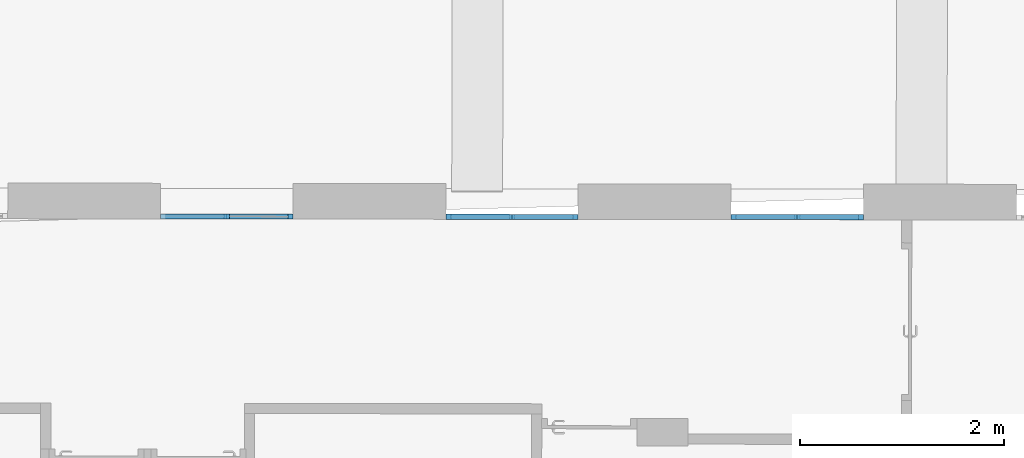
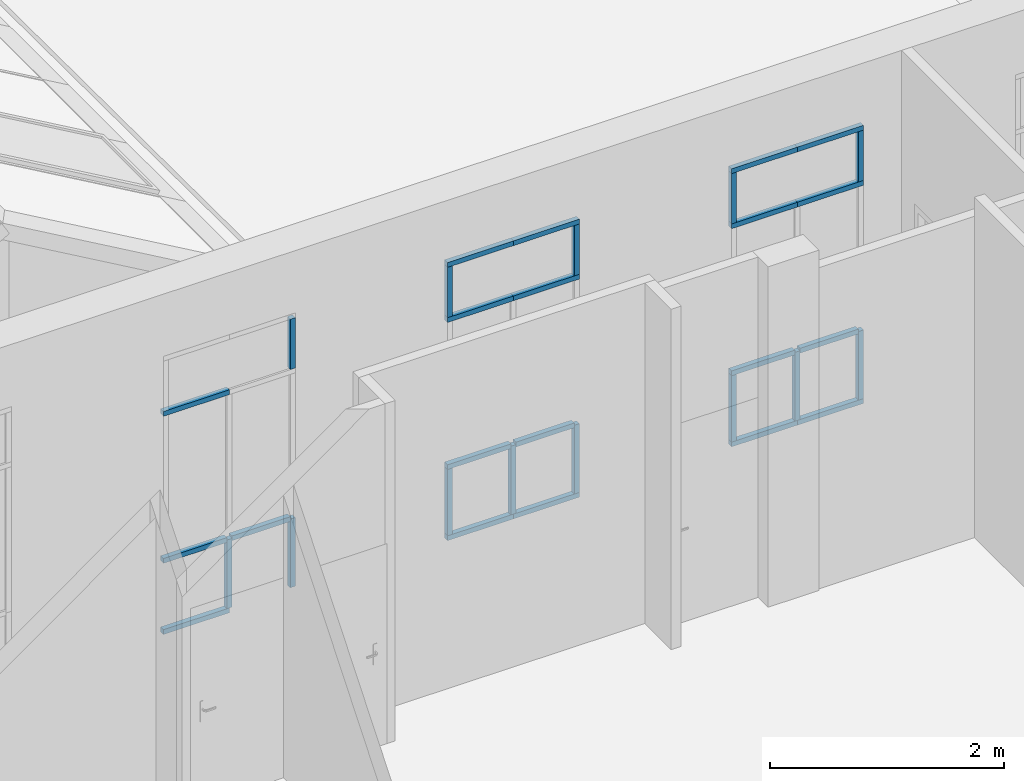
# One storey, part 23 of 101: 33 members, 3 elements without a shape of their own.
"""IFC2X3 building model written with IfcOpenShell, lengths in metres."""

import ifcopenshell
import ifcopenshell.guid

model = None  # the IFC model being written
_history = None  # IfcOwnerHistory: only IFC2X3 demands one
_inside = {}  # id of a spatial element -> (the spatial element, [elements in it])
_under = {}  # id of a project, library or spatial element -> (it, [spatial elements below it])
_declared = {}  # id of a project -> (the project, [libraries it declares])
_typed = {}  # id of a type object -> (the type object, [elements of that type])
_made_of = {}  # id of a material, layer set ... -> (it, [elements and type objects made of it])


def new_model(schema):
    """Start an empty IFC model of exactly this schema.

    Asked for "IFC4X3", IfcOpenShell would pick the latest addendum, in which some entities
    have other attributes; the version numbers below select the first issue.
    IFC2X3 requires an IfcOwnerHistory on every rooted entity: one is made here for all.
    """
    global model, _history
    if schema == "IFC4X3":
        model = ifcopenshell.file(schema_version=(4, 3, 0, 0))
    else:
        model = ifcopenshell.file(schema=schema)
    _inside.clear()
    _under.clear()
    _declared.clear()
    _typed.clear()
    _made_of.clear()
    _history = None
    if model.schema == "IFC2X3":
        org = make("IfcOrganization", Name="unknown")
        user = make(
            "IfcPersonAndOrganization",
            ThePerson=make("IfcPerson", FamilyName="unknown"),
            TheOrganization=org,
        )
        app = make(
            "IfcApplication",
            ApplicationDeveloper=org,
            Version="unknown",
            ApplicationFullName="unknown",
            ApplicationIdentifier="unknown",
        )
        _history = make(
            "IfcOwnerHistory",
            OwningUser=user,
            OwningApplication=app,
            ChangeAction="ADDED",
            CreationDate=0,
        )
    return model


def make(cls, **values):
    """One entity of the class cls with the attributes given. An attribute that is None is left unset."""
    return model.create_entity(
        cls, **{name: value for name, value in values.items() if value is not None}
    )


def entity(cls, *values):
    """Any entity or typed value of the class cls, its attributes in the order of the schema. None: left unset."""
    e = model.create_entity(cls)
    for i, value in enumerate(values):
        if value is not None:
            e[i] = value
    return e


def rooted(cls, **values):
    """An entity with a GlobalId (a new one), such as an element, a storey or a relation."""
    return make(cls, GlobalId=ifcopenshell.guid.new(), OwnerHistory=_history, **values)


def si_unit(unit_type, name, prefix=None):
    """IfcSIUnit, for example si_unit("LENGTHUNIT", "METRE", prefix="MILLI")."""
    return make("IfcSIUnit", UnitType=unit_type, Prefix=prefix, Name=name)


def converted_unit(unit_type, name, factor, base, dimensions=None, offset=None):
    """IfcConversionBasedUnit, such as the inch: factor (a typed value) times the base unit."""
    return make(
        "IfcConversionBasedUnit"
        if offset is None
        else "IfcConversionBasedUnitWithOffset",
        ConversionOffset=offset,
        Dimensions=None
        if dimensions is None
        else entity("IfcDimensionalExponents", *dimensions),
        UnitType=unit_type,
        Name=name,
        ConversionFactor=make(
            "IfcMeasureWithUnit", ValueComponent=factor, UnitComponent=base
        ),
    )


def derived_unit(unit_type, elements):
    """IfcDerivedUnit: a product of units, each with its exponent."""
    return make(
        "IfcDerivedUnit",
        Elements=[
            make("IfcDerivedUnitElement", Unit=unit, Exponent=power)
            for unit, power in elements
        ],
        UnitType=unit_type,
    )


def assignment(units):
    """IfcUnitAssignment: the units of a project."""
    return None if units is None else make("IfcUnitAssignment", Units=units)


def point(xyz):
    """IfcCartesianPoint."""
    return None if xyz is None else make("IfcCartesianPoint", Coordinates=xyz)


def direction(xyz):
    """IfcDirection."""
    return None if xyz is None else make("IfcDirection", DirectionRatios=xyz)


def frame(location, z_axis=None, x_axis=None):
    """IfcAxis2Placement3D, a coordinate frame: its origin and axes. An axis left out is left unset."""
    return make(
        "IfcAxis2Placement3D",
        Location=point(location),
        Axis=direction(z_axis),
        RefDirection=direction(x_axis),
    )


def frame_2d(location, x_axis=None):
    """IfcAxis2Placement2D, a coordinate frame in the plane: its origin and x axis."""
    return make(
        "IfcAxis2Placement2D", Location=point(location), RefDirection=direction(x_axis)
    )


def origin():
    """The frame at (0, 0, 0) with its axes left unset."""
    return frame((0.0, 0.0, 0.0))


def origin_2d_with_axis():
    """The frame at (0, 0) in the plane with the x axis (1, 0) written out."""
    return frame_2d((0.0, 0.0), x_axis=(1.0, 0.0))


def place(relative_to, where):
    """IfcLocalPlacement: puts the frame where relative to a parent placement (None: the world)."""
    return make(
        "IfcLocalPlacement", PlacementRelTo=relative_to, RelativePlacement=where
    )


def context(
    kind, dimensions, precision=None, world=None, true_north=None, identifier=None
):
    """IfcGeometricRepresentationContext, for example the 3D "Model" context."""
    return make(
        "IfcGeometricRepresentationContext",
        ContextIdentifier=identifier,
        ContextType=kind,
        CoordinateSpaceDimension=dimensions,
        Precision=precision,
        WorldCoordinateSystem=world,
        TrueNorth=true_north,
    )


def subcontext(parent, identifier, kind, view, scale=None):
    """IfcGeometricRepresentationSubContext, for example "Body" below "Model"."""
    return make(
        "IfcGeometricRepresentationSubContext",
        ContextIdentifier=identifier,
        ContextType=kind,
        ParentContext=parent,
        TargetScale=scale,
        TargetView=view,
    )


def project(units=None, contexts=None):
    """IfcProject with its units and contexts."""
    return rooted(
        "IfcProject",
        Name="project",
        RepresentationContexts=contexts,
        UnitsInContext=assignment(units),
    )


def spatial(cls, under=None, at=None, **own):
    """A site, building, storey or space (cls), placed at a placement, below another one or the project."""
    s = rooted(cls, ObjectPlacement=at, **own)
    if under is not None:
        _under.setdefault(under.id(), (under, []))[1].append(s)
    return s


def profile(cls, at=None, kind="AREA", **sizes):
    """A parametric profile (cls). Its sizes go by their IFC names, for example OverallWidth=200.0."""
    return make(cls, ProfileType=kind, Position=at, **sizes)


def rectangle(**sizes):
    """IfcRectangleProfileDef."""
    return profile("IfcRectangleProfileDef", **sizes)


def extrude(swept, where, along, depth):
    """IfcExtrudedAreaSolid: the profile swept, set in the frame where, extruded along a direction by depth."""
    return make(
        "IfcExtrudedAreaSolid",
        SweptArea=swept,
        Position=where,
        ExtrudedDirection=direction(along),
        Depth=depth,
    )


def shape(context_of_items, identifier, shape_type, items):
    """IfcShapeRepresentation: the items that make up one representation, for example the "Body"."""
    return make(
        "IfcShapeRepresentation",
        ContextOfItems=context_of_items,
        RepresentationIdentifier=identifier,
        RepresentationType=shape_type,
        Items=items,
    )


def source(mapping_origin, context_of_items, identifier, shape_type, items):
    """IfcRepresentationMap: a shape defined once, which mapped items show again and again."""
    return make(
        "IfcRepresentationMap",
        MappingOrigin=mapping_origin,
        MappedRepresentation=shape(context_of_items, identifier, shape_type, items),
    )


def transform(
    local_origin,
    x_axis=None,
    y_axis=None,
    z_axis=None,
    scale=None,
    scale2=None,
    scale3=None,
    uniform=True,
):
    """IfcCartesianTransformationOperator3D, or its non-uniform kind. x_axis, y_axis, z_axis: its Axis1, 2, 3."""
    if uniform:
        return make(
            "IfcCartesianTransformationOperator3D",
            Axis1=direction(x_axis),
            Axis2=direction(y_axis),
            LocalOrigin=point(local_origin),
            Scale=scale,
            Axis3=direction(z_axis),
        )
    return make(
        "IfcCartesianTransformationOperator3DnonUniform",
        Axis1=direction(x_axis),
        Axis2=direction(y_axis),
        LocalOrigin=point(local_origin),
        Scale=scale,
        Axis3=direction(z_axis),
        Scale2=scale2,
        Scale3=scale3,
    )


def mapped(mapping_source, mapping_target):
    """IfcMappedItem: shows the shape of a source again, moved by a transform."""
    return make(
        "IfcMappedItem", MappingSource=mapping_source, MappingTarget=mapping_target
    )


def material(Name=None, Category=None):
    """IfcMaterial."""
    return make("IfcMaterial", Name=Name, Category=Category)


def made_of(thing, what):
    """Note that an element or type object is made of a material, layer set ...; save() writes the relation."""
    if what is not None:
        _made_of.setdefault(what.id(), (what, []))[1].append(thing)
    return thing


def type_object(cls, material=None, **own):
    """A type object (cls), such as IfcWallType, which elements share."""
    return made_of(rooted(cls, **own), material)


def type_shapes(of_type, sources):
    """Give a type object the sources (RepresentationMaps) that its elements show as mapped items."""
    of_type.RepresentationMaps = sources


def element(
    cls,
    number,
    at=None,
    inside=None,
    cuts=None,
    type_object=None,
    material=None,
    context=None,
    identifier="Body",
    shape_type=None,
    held_by="IfcProductDefinitionShape",
    body=None,
    shapes=None,
    **own,
):
    """One element of the class cls, such as IfcWall. Its Tag is "e" and its number.

    at: its placement. inside: the storey or other place that contains it. cuts: it is an
    opening in that element (IfcRelVoidsElement). A single representation is given by context,
    identifier, shape_type and body (its items); several are given by shapes. held_by: the class
    of the entity that holds the representations. save() writes the other relations.
    """
    e = rooted(cls, Tag="e%d" % number, ObjectPlacement=at, **own)
    if body is not None:
        shapes = [shape(context, identifier, shape_type, body)]
    if shapes is not None:
        e.Representation = make(held_by, Representations=shapes)
    if inside is not None:
        _inside.setdefault(inside.id(), (inside, []))[1].append(e)
    if cuts is not None:
        rooted(
            "IfcRelVoidsElement", RelatingBuildingElement=cuts, RelatedOpeningElement=e
        )
    if type_object is not None:
        _typed.setdefault(type_object.id(), (type_object, []))[1].append(e)
    return made_of(e, material)


def aggregate(whole, parts):
    """IfcRelAggregates: a whole, such as a stair, and the parts it consists of."""
    return rooted("IfcRelAggregates", RelatingObject=whole, RelatedObjects=parts)


def save(model, path):
    """Write the relations noted so far, then the file.

    IfcRelAggregates (storeys below a building ...), IfcRelContainedInSpatialStructure (elements
    in a storey), IfcRelDefinesByType, IfcRelAssociatesMaterial and IfcRelDeclares: one each for
    every whole, place, type object, material and project.
    """
    for whole, parts in _under.values():
        aggregate(whole, parts)
    for where, things in _inside.values():
        rooted(
            "IfcRelContainedInSpatialStructure",
            RelatedElements=things,
            RelatingStructure=where,
        )
    for kind, things in _typed.values():
        rooted("IfcRelDefinesByType", RelatedObjects=things, RelatingType=kind)
    for what, things in _made_of.values():
        rooted("IfcRelAssociatesMaterial", RelatedObjects=things, RelatingMaterial=what)
    for by, libraries in _declared.values():
        rooted("IfcRelDeclares", RelatingContext=by, RelatedDefinitions=libraries)
    model.write(path)


model = new_model("IFC2X3")

# Units and contexts
model_context = context("Model", 3, precision=1e-05, world=origin(), true_north=direction((6.123233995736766e-17, 1.0)))
body_context = subcontext(model_context, "Body", "Model", "MODEL_VIEW")
ifc_project = project(units=[si_unit("LENGTHUNIT", "METRE"), si_unit("AREAUNIT", "SQUARE_METRE"), converted_unit("PLANEANGLEUNIT", "DEGREE", entity("IfcPlaneAngleMeasure", 0.017453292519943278), si_unit("PLANEANGLEUNIT", "RADIAN"), dimensions=[0, 0, 0, 0, 0, 0, 0]), derived_unit("THERMALTRANSMITTANCEUNIT", [(si_unit("MASSUNIT", "GRAM", prefix="KILO"), 1), (si_unit("THERMODYNAMICTEMPERATUREUNIT", "KELVIN"), -1), (si_unit("TIMEUNIT", "SECOND"), -3)])], contexts=[model_context])

# Site, building, storey
site_placement = place(None, frame((1253.6752467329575, 2072.143113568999, 91.49999999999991), z_axis=(0.0, 0.0, 1.0), x_axis=(0.7237211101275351, 0.6900925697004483, 0.0)))
site = spatial("IfcSite", under=ifc_project, at=site_placement, Name="Surface", CompositionType="ELEMENT")
building_placement = place(site_placement, origin())
building = spatial("IfcBuilding", under=site, at=building_placement, CompositionType="ELEMENT")
storey_placement = place(building_placement, origin())
storey = spatial("IfcBuildingStorey", under=building, at=storey_placement, Name="0- Rdc", CompositionType="ELEMENT", Elevation=-5.764692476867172e-13)

# Curtain wall, member
curtain_wall_type = type_object("IfcCurtainWallType", Name="Mur-rideau:Menuiserie Ext 2OF+1F VERTIC", PredefinedType="NOTDEFINED")
curtain_wall_1_placement = place(storey_placement, origin())
curtain_wall_1 = element("IfcCurtainWall", 1, at=curtain_wall_1_placement, inside=storey, type_object=curtain_wall_type, Name="Mur-rideau:Menuiserie Ext 2OF+1F VERTIC", ObjectType="Mur-rideau:Menuiserie Ext 2OF+1F VERTIC")
ifc_material = material(Name="OMD_Aluminium Men Ext")
member_type_1 = type_object("IfcMemberType", Name="Meneau rectangulaire:50x50", PredefinedType="MULLION", material=ifc_material)
shared_shape_1 = source(origin(), body_context, "Body", "SweptSolid", [
    extrude(rectangle(XDim=0.05, YDim=0.05, at=origin_2d_with_axis()), frame((0.0, 0.0, -0.5748479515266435), z_axis=(0.0, 0.0, 1.0), x_axis=(-1.0, 0.0, 0.0)), (0.0, 0.0, 1.0), 0.5748479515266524),
])
type_shapes(member_type_1, [shared_shape_1])
member_1_placement = place(curtain_wall_1_placement, frame((167.53252165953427, -6.478202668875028, 0.7666666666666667), z_axis=(-0.7228702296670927, 0.6909838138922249, 0.0), x_axis=(0.0, 0.0, 1.0)))
member_1 = element("IfcMember", 2, at=member_1_placement, type_object=member_type_1, material=ifc_material, Name="Meneau rectangulaire:50x50", ObjectType="Meneau rectangulaire:50x50", context=body_context, shape_type="MappedRepresentation", body=[
    mapped(shared_shape_1, transform((0.0, 0.0, 0.0), scale=1.0)),
])

curtain_wall_2_placement = place(storey_placement, origin())
curtain_wall_2 = element("IfcCurtainWall", 3, at=curtain_wall_2_placement, inside=storey, type_object=curtain_wall_type, Name="Mur-rideau:Menuiserie Ext 2OF+1F VERTIC", ObjectType="Mur-rideau:Menuiserie Ext 2OF+1F VERTIC")
member_2_placement = place(curtain_wall_2_placement, frame((169.5565583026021, -8.412957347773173, 0.7666666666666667), z_axis=(-0.7228702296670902, 0.6909838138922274, 0.0), x_axis=(0.0, 0.0, 1.0)))
member_2 = element("IfcMember", 4, at=member_2_placement, type_object=member_type_1, material=ifc_material, Name="Meneau rectangulaire:50x50", ObjectType="Meneau rectangulaire:50x50", context=body_context, shape_type="MappedRepresentation", body=[
    mapped(shared_shape_1, transform((0.0, 0.0, 0.0), scale=1.0)),
])

curtain_wall_3_placement = place(storey_placement, origin())
curtain_wall_3 = element("IfcCurtainWall", 5, at=curtain_wall_3_placement, inside=storey, type_object=curtain_wall_type, Name="Mur-rideau:Menuiserie Ext 2OF+1F VERTIC", ObjectType="Mur-rideau:Menuiserie Ext 2OF+1F VERTIC")
member_3_placement = place(curtain_wall_3_placement, frame((171.58059494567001, -10.347712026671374, 0.7666666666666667), z_axis=(-0.7228702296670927, 0.6909838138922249, 0.0), x_axis=(0.0, 0.0, 1.0)))
member_3 = element("IfcMember", 6, at=member_3_placement, type_object=member_type_1, material=ifc_material, Name="Meneau rectangulaire:50x50", ObjectType="Meneau rectangulaire:50x50", context=body_context, shape_type="MappedRepresentation", body=[
    mapped(shared_shape_1, transform((0.0, 0.0, 0.0), scale=1.0)),
])

# Member
member_type_2 = type_object("IfcMemberType", Name="Meneau rectangulaire:50x50", PredefinedType="MULLION", material=ifc_material)
shared_shape_2 = source(origin(), body_context, "Body", "SweptSolid", [
    extrude(rectangle(XDim=0.05, YDim=0.05, at=origin_2d_with_axis()), frame((-0.025, 0.0, -0.649847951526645), z_axis=(0.0, 0.0, 1.0), x_axis=(-1.0, 0.0, 0.0)), (0.0, 0.0, 1.0), 0.6498479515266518),
])
type_shapes(member_type_2, [shared_shape_2])
member_4_placement = place(curtain_wall_2_placement, frame((169.06873080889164, -7.946648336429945, 2.8999999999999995), z_axis=(-0.7228702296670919, 0.6909838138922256, 0.0), x_axis=(0.0, 0.0, 1.0)))
member_4 = element("IfcMember", 7, at=member_4_placement, type_object=member_type_2, material=ifc_material, Name="Meneau rectangulaire:50x50", ObjectType="Meneau rectangulaire:50x50", context=body_context, shape_type="MappedRepresentation", body=[
    mapped(shared_shape_2, transform((0.0, 0.0, 0.0), scale=1.0)),
])

member_5_placement = place(curtain_wall_3_placement, frame((171.09276745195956, -9.881403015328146, 2.8999999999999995), z_axis=(-0.722870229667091, 0.6909838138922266, 0.0), x_axis=(0.0, 0.0, 1.0)))
member_5 = element("IfcMember", 8, at=member_5_placement, type_object=member_type_2, material=ifc_material, Name="Meneau rectangulaire:50x50", ObjectType="Meneau rectangulaire:50x50", context=body_context, shape_type="MappedRepresentation", body=[
    mapped(shared_shape_2, transform((0.0, 0.0, 0.0), scale=1.0)),
])

member_type_3 = type_object("IfcMemberType", Name="Meneau rectangulaire:50x50", PredefinedType="MULLION", material=ifc_material)
shared_shape_3 = source(origin(), body_context, "Body", "SweptSolid", [
    extrude(rectangle(XDim=0.05, YDim=0.05, at=origin_2d_with_axis()), frame((-0.025, 0.0, -0.6498479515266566), z_axis=(0.0, 0.0, 1.0), x_axis=(-1.0, 0.0, 0.0)), (0.0, 0.0, 1.0), 0.6498479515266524),
])
type_shapes(member_type_3, [shared_shape_3])
member_6_placement = place(curtain_wall_2_placement, frame((170.00824228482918, -8.844717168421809, 0.0), z_axis=(0.7228702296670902, -0.6909838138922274, 0.0), x_axis=(0.0, 0.0, -1.0)))
member_6 = element("IfcMember", 9, at=member_6_placement, type_object=member_type_3, material=ifc_material, Name="Meneau rectangulaire:50x50", ObjectType="Meneau rectangulaire:50x50", context=body_context, shape_type="MappedRepresentation", body=[
    mapped(shared_shape_3, transform((0.0, 0.0, 0.0), scale=1.0)),
])

member_7_placement = place(curtain_wall_3_placement, frame((172.0322789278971, -10.779471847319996, 0.0), z_axis=(0.7228702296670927, -0.6909838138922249, 0.0), x_axis=(0.0, 0.0, -1.0)))
member_7 = element("IfcMember", 10, at=member_7_placement, type_object=member_type_3, material=ifc_material, Name="Meneau rectangulaire:50x50", ObjectType="Meneau rectangulaire:50x50", context=body_context, shape_type="MappedRepresentation", body=[
    mapped(shared_shape_3, transform((0.0, 0.0, 0.0), scale=1.0)),
])

member_type_4 = type_object("IfcMemberType", Name="Meneau rectangulaire:50x50", PredefinedType="MULLION", material=ifc_material)
shared_shape_4 = source(origin(), body_context, "Body", "SweptSolid", [
    extrude(rectangle(XDim=0.05, YDim=0.049999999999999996, at=origin_2d_with_axis()), frame((-0.025, 0.0, -0.6916666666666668), z_axis=(0.0, 0.0, 1.0), x_axis=(-1.0, 0.0, 0.0)), (0.0, 0.0, 1.0), 0.6916666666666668),
])
type_shapes(member_type_4, [shared_shape_4])
member_8_placement = place(curtain_wall_2_placement, frame((169.06873080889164, -7.946648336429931, 0.05), z_axis=(0.0, 0.0, -1.0), x_axis=(-0.7228702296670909, 0.6909838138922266, 0.0)))
member_8 = element("IfcMember", 11, at=member_8_placement, type_object=member_type_4, material=ifc_material, Name="Meneau rectangulaire:50x50", ObjectType="Meneau rectangulaire:50x50", context=body_context, shape_type="MappedRepresentation", body=[
    mapped(shared_shape_4, transform((0.0, 0.0, 0.0), scale=1.0)),
])

member_9_placement = place(curtain_wall_3_placement, frame((171.09276745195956, -9.881403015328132, 0.05), z_axis=(0.0, 0.0, -1.0), x_axis=(-0.7228702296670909, 0.6909838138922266, 0.0)))
member_9 = element("IfcMember", 12, at=member_9_placement, type_object=member_type_4, material=ifc_material, Name="Meneau rectangulaire:50x50", ObjectType="Meneau rectangulaire:50x50", context=body_context, shape_type="MappedRepresentation", body=[
    mapped(shared_shape_4, transform((0.0, 0.0, 0.0), scale=1.0)),
])

member_type_5 = type_object("IfcMemberType", Name="Meneau rectangulaire:50x50", PredefinedType="MULLION", material=ifc_material)
shared_shape_5 = source(origin(), body_context, "Body", "SweptSolid", [
    extrude(rectangle(XDim=0.05, YDim=0.049999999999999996, at=origin_2d_with_axis()), frame((-0.025, 0.0, -0.5249999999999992), z_axis=(0.0, 0.0, 1.0), x_axis=(-1.0, 0.0, 0.0)), (0.0, 0.0, 1.0), 0.5249999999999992),
])
type_shapes(member_type_5, [shared_shape_5])
member_10_placement = place(curtain_wall_1_placement, frame((167.98420564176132, -6.90996248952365, 2.8499999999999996), z_axis=(0.0, 0.0, 1.0), x_axis=(0.7228702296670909, -0.6909838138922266, 0.0)))
member_10 = element("IfcMember", 13, at=member_10_placement, type_object=member_type_5, material=ifc_material, Name="Meneau rectangulaire:50x50", ObjectType="Meneau rectangulaire:50x50", context=body_context, shape_type="MappedRepresentation", body=[
    mapped(shared_shape_5, transform((0.0, 0.0, 0.0), scale=1.0)),
])

member_11_placement = place(curtain_wall_2_placement, frame((170.00824228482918, -8.844717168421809, 2.8499999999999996), z_axis=(0.0, 0.0, 1.0), x_axis=(0.7228702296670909, -0.6909838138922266, 0.0)))
member_11 = element("IfcMember", 14, at=member_11_placement, type_object=member_type_5, material=ifc_material, Name="Meneau rectangulaire:50x50", ObjectType="Meneau rectangulaire:50x50", context=body_context, shape_type="MappedRepresentation", body=[
    mapped(shared_shape_5, transform((0.0, 0.0, 0.0), scale=1.0)),
])

member_12_placement = place(curtain_wall_3_placement, frame((172.03227892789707, -10.77947184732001, 2.8499999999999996), z_axis=(0.0, 0.0, 1.0), x_axis=(0.7228702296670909, -0.6909838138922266, 0.0)))
member_12 = element("IfcMember", 15, at=member_12_placement, type_object=member_type_5, material=ifc_material, Name="Meneau rectangulaire:50x50", ObjectType="Meneau rectangulaire:50x50", context=body_context, shape_type="MappedRepresentation", body=[
    mapped(shared_shape_5, transform((0.0, 0.0, 0.0), scale=1.0)),
])

member_type_6 = type_object("IfcMemberType", Name="Meneau rectangulaire:50x50", PredefinedType="MULLION", material=ifc_material)
shared_shape_6 = source(origin(), body_context, "Body", "SweptSolid", [
    extrude(rectangle(XDim=0.05, YDim=0.05, at=origin_2d_with_axis()), frame((-0.025, 0.0, -0.5249999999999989), z_axis=(0.0, 0.0, 1.0), x_axis=(-1.0, 0.0, 0.0)), (0.0, 0.0, 1.0), 0.5249999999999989),
])
type_shapes(member_type_6, [shared_shape_6])
member_13_placement = place(curtain_wall_2_placement, frame((169.06873080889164, -7.946648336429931, 2.325), z_axis=(0.0, 0.0, -1.0), x_axis=(-0.7228702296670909, 0.6909838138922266, 0.0)))
member_13 = element("IfcMember", 16, at=member_13_placement, type_object=member_type_6, material=ifc_material, Name="Meneau rectangulaire:50x50", ObjectType="Meneau rectangulaire:50x50", context=body_context, shape_type="MappedRepresentation", body=[
    mapped(shared_shape_6, transform((0.0, 0.0, 0.0), scale=1.0)),
])

member_14_placement = place(curtain_wall_3_placement, frame((171.09276745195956, -9.88140301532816, 2.325), z_axis=(0.0, 0.0, -1.0), x_axis=(-0.7228702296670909, 0.6909838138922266, 0.0)))
member_14 = element("IfcMember", 17, at=member_14_placement, type_object=member_type_6, material=ifc_material, Name="Meneau rectangulaire:50x50", ObjectType="Meneau rectangulaire:50x50", context=body_context, shape_type="MappedRepresentation", body=[
    mapped(shared_shape_6, transform((0.0, 0.0, 0.0), scale=1.0)),
])

member_type_7 = type_object("IfcMemberType", Name="Meneau rectangulaire:50x50", PredefinedType="MULLION", material=ifc_material)
shared_shape_7 = source(origin(), body_context, "Body", "SweptSolid", [
    extrude(rectangle(XDim=0.05, YDim=0.05, at=origin_2d_with_axis()), frame((0.0, 0.0, -0.6498479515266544), z_axis=(0.0, 0.0, 1.0), x_axis=(-1.0, 0.0, 0.0)), (0.0, 0.0, 1.0), 0.6498479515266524),
])
type_shapes(member_type_7, [shared_shape_7])
member_15_placement = place(curtain_wall_2_placement, frame((169.53848654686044, -8.39568275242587, 2.3000000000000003), z_axis=(-0.7228702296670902, 0.6909838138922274, 0.0), x_axis=(0.0, 0.0, 1.0)))
member_15 = element("IfcMember", 18, at=member_15_placement, type_object=member_type_7, material=ifc_material, Name="Meneau rectangulaire:50x50", ObjectType="Meneau rectangulaire:50x50", context=body_context, shape_type="MappedRepresentation", body=[
    mapped(shared_shape_7, transform((0.0, 0.0, 0.0), scale=1.0)),
])

member_16_placement = place(curtain_wall_3_placement, frame((171.5625231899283, -10.330437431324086, 2.3000000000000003), z_axis=(-0.7228702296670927, 0.6909838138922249, 0.0), x_axis=(0.0, 0.0, 1.0)))
member_16 = element("IfcMember", 19, at=member_16_placement, type_object=member_type_7, material=ifc_material, Name="Meneau rectangulaire:50x50", ObjectType="Meneau rectangulaire:50x50", context=body_context, shape_type="MappedRepresentation", body=[
    mapped(shared_shape_7, transform((0.0, 0.0, 0.0), scale=1.0)),
])

member_type_8 = type_object("IfcMemberType", Name="Meneau rectangulaire:50x50", PredefinedType="MULLION", material=ifc_material)
shared_shape_8 = source(origin(), body_context, "Body", "SweptSolid", [
    extrude(rectangle(XDim=0.05, YDim=0.049999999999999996, at=origin_2d_with_axis()), frame((-0.025, 0.0, -0.6498479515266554), z_axis=(0.0, 0.0, 1.0), x_axis=(-1.0, 0.0, 0.0)), (0.0, 0.0, 1.0), 0.6498479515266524),
])
type_shapes(member_type_8, [shared_shape_8])
member_17_placement = place(curtain_wall_2_placement, frame((169.53848654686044, -8.39568275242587, 2.8999999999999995), z_axis=(-0.7228702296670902, 0.6909838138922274, 0.0), x_axis=(0.0, 0.0, 1.0)))
member_17 = element("IfcMember", 20, at=member_17_placement, type_object=member_type_8, material=ifc_material, Name="Meneau rectangulaire:50x50", ObjectType="Meneau rectangulaire:50x50", context=body_context, shape_type="MappedRepresentation", body=[
    mapped(shared_shape_8, transform((0.0, 0.0, 0.0), scale=1.0)),
])

member_18_placement = place(curtain_wall_3_placement, frame((171.5625231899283, -10.330437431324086, 2.8999999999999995), z_axis=(-0.7228702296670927, 0.6909838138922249, 0.0), x_axis=(0.0, 0.0, 1.0)))
member_18 = element("IfcMember", 21, at=member_18_placement, type_object=member_type_8, material=ifc_material, Name="Meneau rectangulaire:50x50", ObjectType="Meneau rectangulaire:50x50", context=body_context, shape_type="MappedRepresentation", body=[
    mapped(shared_shape_8, transform((0.0, 0.0, 0.0), scale=1.0)),
])

member_type_9 = type_object("IfcMemberType", Name="Meneau rectangulaire:50x50", PredefinedType="MULLION", material=ifc_material)
shared_shape_9 = source(origin(), body_context, "Body", "SweptSolid", [
    extrude(rectangle(XDim=0.05, YDim=0.05, at=origin_2d_with_axis()), frame((-0.025, 0.0, -0.6498479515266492), z_axis=(0.0, 0.0, 1.0), x_axis=(-1.0, 0.0, 0.0)), (0.0, 0.0, 1.0), 0.6498479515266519),
])
type_shapes(member_type_9, [shared_shape_9])
member_19_placement = place(curtain_wall_1_placement, frame((167.51444990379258, -6.460928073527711, 0.0), z_axis=(0.7228702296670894, -0.6909838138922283, 0.0), x_axis=(0.0, 0.0, -1.0)))
member_19 = element("IfcMember", 22, at=member_19_placement, type_object=member_type_9, material=ifc_material, Name="Meneau rectangulaire:50x50", ObjectType="Meneau rectangulaire:50x50", context=body_context, shape_type="MappedRepresentation", body=[
    mapped(shared_shape_9, transform((0.0, 0.0, 0.0), scale=1.0)),
])

member_20_placement = place(curtain_wall_2_placement, frame((169.53848654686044, -8.395682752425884, 0.0), z_axis=(0.7228702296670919, -0.6909838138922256, 0.0), x_axis=(0.0, 0.0, -1.0)))
member_20 = element("IfcMember", 23, at=member_20_placement, type_object=member_type_9, material=ifc_material, Name="Meneau rectangulaire:50x50", ObjectType="Meneau rectangulaire:50x50", context=body_context, shape_type="MappedRepresentation", body=[
    mapped(shared_shape_9, transform((0.0, 0.0, 0.0), scale=1.0)),
])

member_21_placement = place(curtain_wall_3_placement, frame((171.5625231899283, -10.330437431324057, 0.0), z_axis=(0.7228702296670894, -0.6909838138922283, 0.0), x_axis=(0.0, 0.0, -1.0)))
member_21 = element("IfcMember", 24, at=member_21_placement, type_object=member_type_9, material=ifc_material, Name="Meneau rectangulaire:50x50", ObjectType="Meneau rectangulaire:50x50", context=body_context, shape_type="MappedRepresentation", body=[
    mapped(shared_shape_9, transform((0.0, 0.0, 0.0), scale=1.0)),
])

member_type_10 = type_object("IfcMemberType", Name="Meneau rectangulaire:50x50", PredefinedType="MULLION", material=ifc_material)
shared_shape_10 = source(origin(), body_context, "Body", "SweptSolid", [
    extrude(rectangle(XDim=0.05, YDim=0.05, at=origin_2d_with_axis()), frame((0.0, 0.0, -0.649847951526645), z_axis=(0.0, 0.0, 1.0), x_axis=(-1.0, 0.0, 0.0)), (0.0, 0.0, 1.0), 0.6498479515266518),
])
type_shapes(member_type_10, [shared_shape_10])
member_22_placement = place(curtain_wall_1_placement, frame((167.04469416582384, -6.011893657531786, 2.3000000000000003), z_axis=(-0.7228702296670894, 0.6909838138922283, 0.0), x_axis=(0.0, 0.0, 1.0)))
member_22 = element("IfcMember", 25, at=member_22_placement, type_object=member_type_10, material=ifc_material, Name="Meneau rectangulaire:50x50", ObjectType="Meneau rectangulaire:50x50", context=body_context, shape_type="MappedRepresentation", body=[
    mapped(shared_shape_10, transform((0.0, 0.0, 0.0), scale=1.0)),
])

member_23_placement = place(curtain_wall_2_placement, frame((169.06873080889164, -7.946648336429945, 2.3000000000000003), z_axis=(-0.7228702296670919, 0.6909838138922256, 0.0), x_axis=(0.0, 0.0, 1.0)))
member_23 = element("IfcMember", 26, at=member_23_placement, type_object=member_type_10, material=ifc_material, Name="Meneau rectangulaire:50x50", ObjectType="Meneau rectangulaire:50x50", context=body_context, shape_type="MappedRepresentation", body=[
    mapped(shared_shape_10, transform((0.0, 0.0, 0.0), scale=1.0)),
])

member_24_placement = place(curtain_wall_3_placement, frame((171.09276745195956, -9.881403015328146, 2.3000000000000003), z_axis=(-0.7228702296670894, 0.6909838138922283, 0.0), x_axis=(0.0, 0.0, 1.0)))
member_24 = element("IfcMember", 27, at=member_24_placement, type_object=member_type_10, material=ifc_material, Name="Meneau rectangulaire:50x50", ObjectType="Meneau rectangulaire:50x50", context=body_context, shape_type="MappedRepresentation", body=[
    mapped(shared_shape_10, transform((0.0, 0.0, 0.0), scale=1.0)),
])

member_type_11 = type_object("IfcMemberType", Name="Meneau rectangulaire:50x50", PredefinedType="MULLION", material=ifc_material)
shared_shape_11 = source(origin(), body_context, "Body", "SweptSolid", [
    extrude(rectangle(XDim=0.05, YDim=0.05, at=frame_2d((0.0, 1.734723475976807e-18), x_axis=(1.0, 0.0))), frame((0.0, 0.0, -0.7166666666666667), z_axis=(0.0, 0.0, 1.0), x_axis=(-1.0, 0.0, 0.0)), (0.0, 0.0, 1.0), 0.7166666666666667),
])
type_shapes(member_type_11, [shared_shape_11])
member_25_placement = place(curtain_wall_1_placement, frame((167.51444990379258, -6.460928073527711, 0.05), z_axis=(0.0, 0.0, -1.0), x_axis=(-0.7228702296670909, 0.6909838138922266, 0.0)))
member_25 = element("IfcMember", 28, at=member_25_placement, type_object=member_type_11, material=ifc_material, Name="Meneau rectangulaire:50x50", ObjectType="Meneau rectangulaire:50x50", context=body_context, shape_type="MappedRepresentation", body=[
    mapped(shared_shape_11, transform((0.0, 0.0, 0.0), scale=1.0)),
])

member_26_placement = place(curtain_wall_2_placement, frame((169.53848654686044, -8.395682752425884, 0.05), z_axis=(0.0, 0.0, -1.0), x_axis=(-0.7228702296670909, 0.6909838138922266, 0.0)))
member_26 = element("IfcMember", 29, at=member_26_placement, type_object=member_type_11, material=ifc_material, Name="Meneau rectangulaire:50x50", ObjectType="Meneau rectangulaire:50x50", context=body_context, shape_type="MappedRepresentation", body=[
    mapped(shared_shape_11, transform((0.0, 0.0, 0.0), scale=1.0)),
])

member_27_placement = place(curtain_wall_3_placement, frame((171.5625231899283, -10.330437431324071, 0.05), z_axis=(0.0, 0.0, -1.0), x_axis=(-0.7228702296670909, 0.6909838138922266, 0.0)))
member_27 = element("IfcMember", 30, at=member_27_placement, type_object=member_type_11, material=ifc_material, Name="Meneau rectangulaire:50x50", ObjectType="Meneau rectangulaire:50x50", context=body_context, shape_type="MappedRepresentation", body=[
    mapped(shared_shape_11, transform((0.0, 0.0, 0.0), scale=1.0)),
])

member_type_12 = type_object("IfcMemberType", Name="Meneau rectangulaire:50x50", PredefinedType="MULLION", material=ifc_material)
shared_shape_12 = source(origin(), body_context, "Body", "SweptSolid", [
    extrude(rectangle(XDim=0.05, YDim=0.049999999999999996, at=origin_2d_with_axis()), frame((-0.025, 0.0, -0.7166666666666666), z_axis=(0.0, 0.0, 1.0), x_axis=(-1.0, 0.0, 0.0)), (0.0, 0.0, 1.0), 0.7166666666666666),
])
type_shapes(member_type_12, [shared_shape_12])
member_28_placement = place(curtain_wall_1_placement, frame((167.98420564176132, -6.90996248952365, 0.7666666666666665), z_axis=(0.0, 0.0, 1.0), x_axis=(0.7228702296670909, -0.6909838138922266, 0.0)))
member_28 = element("IfcMember", 31, at=member_28_placement, type_object=member_type_12, material=ifc_material, Name="Meneau rectangulaire:50x50", ObjectType="Meneau rectangulaire:50x50", context=body_context, shape_type="MappedRepresentation", body=[
    mapped(shared_shape_12, transform((0.0, 0.0, 0.0), scale=1.0)),
])

member_29_placement = place(curtain_wall_2_placement, frame((170.00824228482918, -8.844717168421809, 0.7666666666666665), z_axis=(0.0, 0.0, 1.0), x_axis=(0.7228702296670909, -0.6909838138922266, 0.0)))
member_29 = element("IfcMember", 32, at=member_29_placement, type_object=member_type_12, material=ifc_material, Name="Meneau rectangulaire:50x50", ObjectType="Meneau rectangulaire:50x50", context=body_context, shape_type="MappedRepresentation", body=[
    mapped(shared_shape_12, transform((0.0, 0.0, 0.0), scale=1.0)),
])

member_30_placement = place(curtain_wall_3_placement, frame((172.03227892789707, -10.77947184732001, 0.7666666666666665), z_axis=(0.0, 0.0, 1.0), x_axis=(0.7228702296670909, -0.6909838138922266, 0.0)))
member_30 = element("IfcMember", 33, at=member_30_placement, type_object=member_type_12, material=ifc_material, Name="Meneau rectangulaire:50x50", ObjectType="Meneau rectangulaire:50x50", context=body_context, shape_type="MappedRepresentation", body=[
    mapped(shared_shape_12, transform((0.0, 0.0, 0.0), scale=1.0)),
])

member_type_13 = type_object("IfcMemberType", Name="Meneau rectangulaire:50x50", PredefinedType="MULLION", material=ifc_material)
shared_shape_13 = source(origin(), body_context, "Body", "SweptSolid", [
    extrude(rectangle(XDim=0.05, YDim=0.05, at=origin_2d_with_axis()), frame((0.0, 0.0, -0.624847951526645), z_axis=(0.0, 0.0, 1.0), x_axis=(-1.0, 0.0, 0.0)), (0.0, 0.0, 1.0), 0.6248479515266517),
])
type_shapes(member_type_13, [shared_shape_13])
member_31_placement = place(curtain_wall_1_placement, frame((167.04469416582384, -6.011893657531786, 0.7666666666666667), z_axis=(-0.7228702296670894, 0.6909838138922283, 0.0), x_axis=(0.0, 0.0, 1.0)))
member_31 = element("IfcMember", 34, at=member_31_placement, type_object=member_type_13, material=ifc_material, Name="Meneau rectangulaire:50x50", ObjectType="Meneau rectangulaire:50x50", context=body_context, shape_type="MappedRepresentation", body=[
    mapped(shared_shape_13, transform((0.0, 0.0, 0.0), scale=1.0)),
])

aggregate(curtain_wall_1, [member_10, member_19, member_22, member_25, member_28, member_31, member_1])

member_32_placement = place(curtain_wall_2_placement, frame((169.06873080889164, -7.946648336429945, 0.7666666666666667), z_axis=(-0.7228702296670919, 0.6909838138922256, 0.0), x_axis=(0.0, 0.0, 1.0)))
member_32 = element("IfcMember", 35, at=member_32_placement, type_object=member_type_13, material=ifc_material, Name="Meneau rectangulaire:50x50", ObjectType="Meneau rectangulaire:50x50", context=body_context, shape_type="MappedRepresentation", body=[
    mapped(shared_shape_13, transform((0.0, 0.0, 0.0), scale=1.0)),
])

aggregate(curtain_wall_2, [member_4, member_6, member_8, member_11, member_13, member_15, member_17, member_20, member_23, member_26, member_29, member_32, member_2])

member_33_placement = place(curtain_wall_3_placement, frame((171.09276745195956, -9.881403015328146, 0.7666666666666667), z_axis=(-0.7228702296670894, 0.6909838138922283, 0.0), x_axis=(0.0, 0.0, 1.0)))
member_33 = element("IfcMember", 36, at=member_33_placement, type_object=member_type_13, material=ifc_material, Name="Meneau rectangulaire:50x50", ObjectType="Meneau rectangulaire:50x50", context=body_context, shape_type="MappedRepresentation", body=[
    mapped(shared_shape_13, transform((0.0, 0.0, 0.0), scale=1.0)),
])

aggregate(curtain_wall_3, [member_5, member_7, member_9, member_12, member_14, member_16, member_18, member_21, member_24, member_27, member_30, member_33, member_3])

save(model, "model.ifc")
